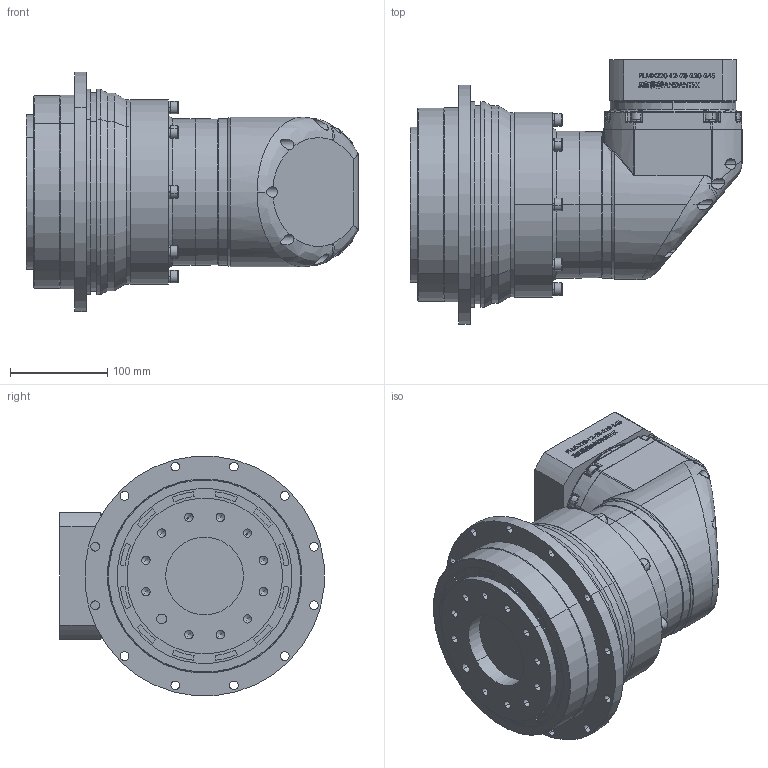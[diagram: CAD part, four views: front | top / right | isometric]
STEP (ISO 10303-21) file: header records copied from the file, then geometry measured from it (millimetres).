
FILE_DESCRIPTION (( 'STEP AP203' ), '1' );
FILE_NAME ('PLMX200-L2-28-110-145.STEP', '2025-03-27T07:21:46', ( 'Windows User' ), ( 'P R C' ), 'SwSTEP 2.0', 'SolidWorks 2016', '' );
FILE_SCHEMA (( 'CONFIG_CONTROL_DESIGN' ));
Length unit declared in the file: millimetre
Products named in the file (24): MYDR140_X2_8f9351fa7aef58f34f53_X0_-_X2_621054c1_X0_; spring lock washers--normal type gb_GB_FASTENER_WASHER_SW 8_1; PLMX200-L1-35-114.3-200-M12-82输入端; MYAR142_X2_8f9351657aef58f34f53_X0_; PLMX_X2_4e3b4f53_X0_; PLMX输入轴-35; hexagon socket head cap screws gb_GB_FASTENER_SCREWS_HSHCS M6X60-C; MYD200怀堤俴陎殤_1; 输入调整套35-28; spring lock washers--normal type gb_GB_FASTENER_WASHER_SW 8; MYD200输出内齿圈_1; PL,MX200输入法兰-110-145-M8-72; hexagon socket head cap screws gb_GB_FASTENER_SCREWS_HSHCS M8X30-C; deep groove ball bearings gb_Rolling bearings 61926 GB 276-94; PLMX200一级内齿圈; MYA142_X2_8f93516595017d2773af_X0_; 嘎殤蚐猾130-180-14_1; 55-80-10; PLMX200-L2-28-110-145; PLMX200-L1怀堤傷; hexagon socket head cap screws gb_GB_FASTENER_SCREWS_HSHCS M10X35-C; MYDR140_X2_8f6c89d27bb14f53_X0_; hexagon socket head cap screws gb_GB_FASTENER_SCREWS_HSHCS M8X45-C_1; MYBR142-L1_X2_540e7aef_X0_
Assembly tree (71 placements, depth 4):
  PLMX200-L2-28-110-145
    PLMX_X2_4e3b4f53_X0_
      hexagon socket head cap screws gb_GB_FASTENER_SCREWS_HSHCS M8X45-C_1  x8
      spring lock washers--normal type gb_GB_FASTENER_WASHER_SW 8_1  x8
    PLMX200-L1怀堤傷
      MYD200怀堤俴陎殤_1
      MYD200输出内齿圈_1
      deep groove ball bearings gb_Rolling bearings 61926 GB 276-94
      嘎殤蚐猾130-180-14_1
    PLMX200-L1-35-114.3-200-M12-82输入端
      MYBR142-L1_X2_540e7aef_X0_
        MYDR140_X2_8f6c89d27bb14f53_X0_
        MYDR140_X2_8f9351fa7aef58f34f53_X0_-_X2_621054c1_X0_
        MYAR142_X2_8f9351657aef58f34f53_X0_
        hexagon socket head cap screws gb_GB_FASTENER_SCREWS_HSHCS M6X60-C  x9
        spring lock washers--normal type gb_GB_FASTENER_WASHER_SW 8  x14
        hexagon socket head cap screws gb_GB_FASTENER_SCREWS_HSHCS M8X30-C  x14
        MYA142_X2_8f93516595017d2773af_X0_
        55-80-10
        hexagon socket head cap screws gb_GB_FASTENER_SCREWS_HSHCS M10X35-C
    PLMX输入轴-35
    输入调整套35-28
    PL,MX200输入法兰-110-145-M8-72
    PLMX200一级内齿圈
Bounding box: 341.5 x 272.03 x 246.06 mm (x, y, z)
Volume: 6959549.5 mm3; surface area: 968904.4 mm2
Topology: 67 solids, 69 shells, 3601 faces, 9146 edges, 5666 vertices
Faces by surface type: plane 1280, bspline 908, cylinder 749, cone 425, torus 226, sphere 13
Entity records: 118539 total; most frequent: CARTESIAN_POINT 53772, ORIENTED_EDGE 13912, DIRECTION 11170, EDGE_CURVE 6956, VERTEX_POINT 4409, AXIS2_PLACEMENT_3D 4333, EDGE_LOOP 3011, FACE_OUTER_BOUND 2701
